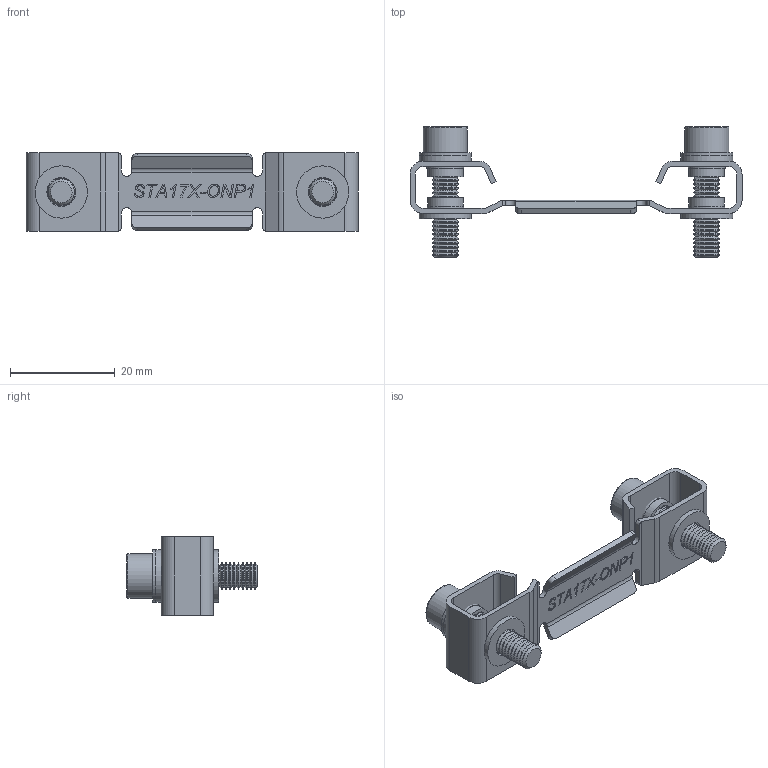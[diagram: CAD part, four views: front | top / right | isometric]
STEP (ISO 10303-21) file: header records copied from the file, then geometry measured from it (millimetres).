
FILE_DESCRIPTION (( 'STEP AP214' ), '1' );
FILE_NAME ('OMS2 mounting clamps.STEP', '2019-06-05T12:15:22', ( '' ), ( '' ), 'SwSTEP 2.0', 'SolidWorks 2017', '' );
FILE_SCHEMA (( 'AUTOMOTIVE_DESIGN' ));
Length unit declared in the file: millimetre
Products named in the file (5): MIM897X_MIM897; MIM507X_MIM507; RON003X; STA173X; OMS2 mounting clamps
Assembly tree (9 placements, depth 2):
  OMS2 mounting clamps
    STA173X
    MIM507X_MIM507  x2
    MIM897X_MIM897  x2
    RON003X  x4
Bounding box: 63.5 x 25 x 15 mm (x, y, z)
Volume: 3172 mm3; surface area: 6301.8 mm2
Topology: 9 solids, 9 shells, 525 faces, 1287 edges, 804 vertices
Faces by surface type: plane 222, cylinder 148, cone 92, bspline 59, torus 4
Full cylindrical faces by diameter (mm): 5 x46, 5.5 x4, 5.9 x4, 6.8 x4, 7 x4, 8.5 x2, 10 x6
Entity records: 12895 total; most frequent: CARTESIAN_POINT 4531, ORIENTED_EDGE 1666, DIRECTION 1551, EDGE_CURVE 833, VERTEX_POINT 578, AXIS2_PLACEMENT_3D 522, VECTOR 507, LINE 507
